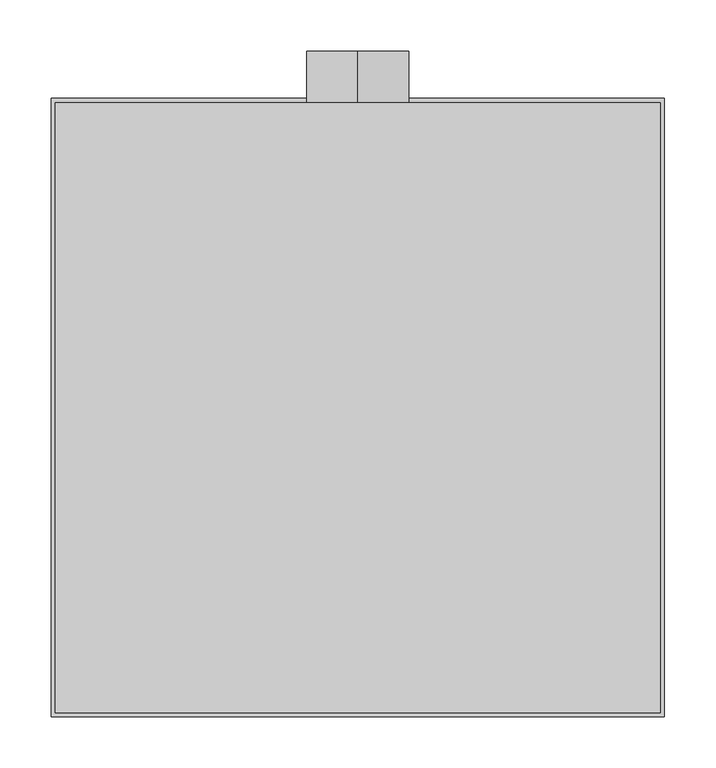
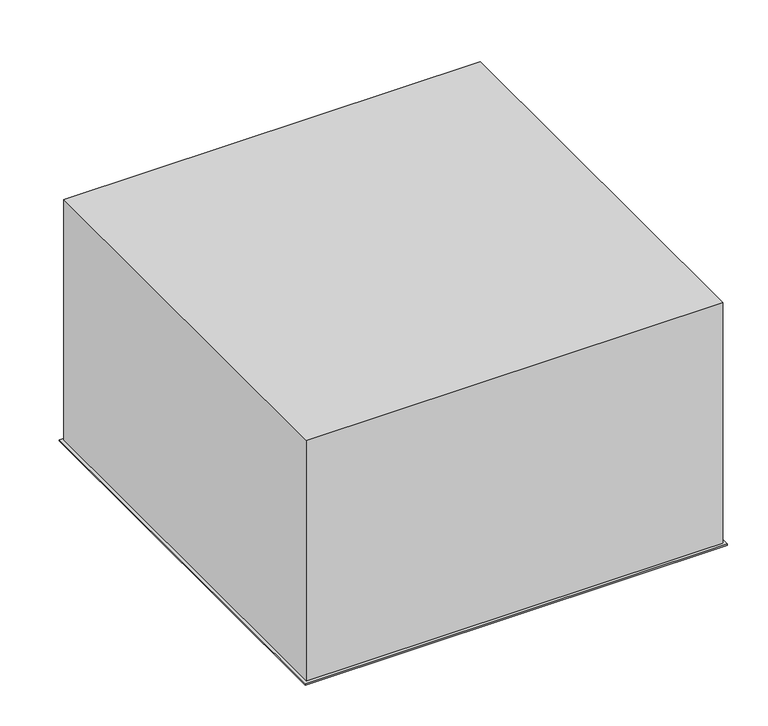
"""IFC4 building model written with IfcOpenShell, lengths in millimetres: air terminal geometry, EOL - plafonnier : EOL-P4-100-600x600."""

import ifcopenshell
import ifcopenshell.guid

model = None  # the IFC model being written
_history = None  # IfcOwnerHistory: only IFC2X3 demands one
_inside = {}  # id of a spatial element -> (the spatial element, [elements in it])
_under = {}  # id of a project, library or spatial element -> (it, [spatial elements below it])
_declared = {}  # id of a project -> (the project, [libraries it declares])
_typed = {}  # id of a type object -> (the type object, [elements of that type])
_made_of = {}  # id of a material, layer set ... -> (it, [elements and type objects made of it])


def new_model(schema):
    """Start an empty IFC model of exactly this schema.

    Asked for "IFC4X3", IfcOpenShell would pick the latest addendum, in which some entities
    have other attributes; the version numbers below select the first issue.
    IFC2X3 requires an IfcOwnerHistory on every rooted entity: one is made here for all.
    """
    global model, _history
    if schema == "IFC4X3":
        model = ifcopenshell.file(schema_version=(4, 3, 0, 0))
    else:
        model = ifcopenshell.file(schema=schema)
    _inside.clear()
    _under.clear()
    _declared.clear()
    _typed.clear()
    _made_of.clear()
    _history = None
    if model.schema == "IFC2X3":
        org = make("IfcOrganization", Name="unknown")
        user = make(
            "IfcPersonAndOrganization",
            ThePerson=make("IfcPerson", FamilyName="unknown"),
            TheOrganization=org,
        )
        app = make(
            "IfcApplication",
            ApplicationDeveloper=org,
            Version="unknown",
            ApplicationFullName="unknown",
            ApplicationIdentifier="unknown",
        )
        _history = make(
            "IfcOwnerHistory",
            OwningUser=user,
            OwningApplication=app,
            ChangeAction="ADDED",
            CreationDate=0,
        )
    return model


def make(cls, **values):
    """One entity of the class cls with the attributes given. An attribute that is None is left unset."""
    return model.create_entity(
        cls, **{name: value for name, value in values.items() if value is not None}
    )


def rooted(cls, **values):
    """An entity with a GlobalId (a new one), such as an element, a storey or a relation."""
    return make(cls, GlobalId=ifcopenshell.guid.new(), OwnerHistory=_history, **values)


def si_unit(unit_type, name, prefix=None):
    """IfcSIUnit, for example si_unit("LENGTHUNIT", "METRE", prefix="MILLI")."""
    return make("IfcSIUnit", UnitType=unit_type, Prefix=prefix, Name=name)


def assignment(units):
    """IfcUnitAssignment: the units of a project."""
    return None if units is None else make("IfcUnitAssignment", Units=units)


def point(xyz):
    """IfcCartesianPoint."""
    return None if xyz is None else make("IfcCartesianPoint", Coordinates=xyz)


def direction(xyz):
    """IfcDirection."""
    return None if xyz is None else make("IfcDirection", DirectionRatios=xyz)


def frame(location, z_axis=None, x_axis=None):
    """IfcAxis2Placement3D, a coordinate frame: its origin and axes. An axis left out is left unset."""
    return make(
        "IfcAxis2Placement3D",
        Location=point(location),
        Axis=direction(z_axis),
        RefDirection=direction(x_axis),
    )


def frame_2d(location, x_axis=None):
    """IfcAxis2Placement2D, a coordinate frame in the plane: its origin and x axis."""
    return make(
        "IfcAxis2Placement2D", Location=point(location), RefDirection=direction(x_axis)
    )


def origin():
    """The frame at (0, 0, 0) with its axes left unset."""
    return frame((0.0, 0.0, 0.0))


def place(relative_to, where):
    """IfcLocalPlacement: puts the frame where relative to a parent placement (None: the world)."""
    return make(
        "IfcLocalPlacement", PlacementRelTo=relative_to, RelativePlacement=where
    )


def context(
    kind, dimensions, precision=None, world=None, true_north=None, identifier=None
):
    """IfcGeometricRepresentationContext, for example the 3D "Model" context."""
    return make(
        "IfcGeometricRepresentationContext",
        ContextIdentifier=identifier,
        ContextType=kind,
        CoordinateSpaceDimension=dimensions,
        Precision=precision,
        WorldCoordinateSystem=world,
        TrueNorth=true_north,
    )


def project(units=None, contexts=None):
    """IfcProject with its units and contexts."""
    return rooted(
        "IfcProject",
        Name="project",
        RepresentationContexts=contexts,
        UnitsInContext=assignment(units),
    )


def spatial(cls, under=None, at=None, **own):
    """A site, building, storey or space (cls), placed at a placement, below another one or the project."""
    s = rooted(cls, ObjectPlacement=at, **own)
    if under is not None:
        _under.setdefault(under.id(), (under, []))[1].append(s)
    return s


def polyline(points):
    """IfcPolyline through the points."""
    return make("IfcPolyline", Points=[point(p) for p in points])


def circle_curve(where, radius):
    """IfcCircle in the frame where."""
    return make("IfcCircle", Position=where, Radius=radius)


def ellipse_curve(where, semi_axis1, semi_axis2):
    """IfcEllipse in the frame where."""
    return make(
        "IfcEllipse", Position=where, SemiAxis1=semi_axis1, SemiAxis2=semi_axis2
    )


def trimmed(basis, trim1, trim2, sense, master):
    """IfcTrimmedCurve: the piece of a basis curve between two trims."""
    return make(
        "IfcTrimmedCurve",
        BasisCurve=basis,
        Trim1=trim1,
        Trim2=trim2,
        SenseAgreement=sense,
        MasterRepresentation=master,
    )


def segment(curve, same_sense, transition):
    """IfcCompositeCurveSegment."""
    return make(
        "IfcCompositeCurveSegment",
        Transition=transition,
        SameSense=same_sense,
        ParentCurve=curve,
    )


def composite_curve(segments, self_intersect=None):
    """IfcCompositeCurve: segments joined end to end."""
    return make("IfcCompositeCurve", Segments=segments, SelfIntersect=self_intersect)


def outline(outer, holes=None, kind="AREA"):
    """IfcArbitraryClosedProfileDef: a profile drawn as a closed curve; with holes, ...WithVoids."""
    if holes is None:
        return make("IfcArbitraryClosedProfileDef", ProfileType=kind, OuterCurve=outer)
    return make(
        "IfcArbitraryProfileDefWithVoids",
        ProfileType=kind,
        OuterCurve=outer,
        InnerCurves=holes,
    )


def extrude(swept, where, along, depth):
    """IfcExtrudedAreaSolid: the profile swept, set in the frame where, extruded along a direction by depth."""
    return make(
        "IfcExtrudedAreaSolid",
        SweptArea=swept,
        Position=where,
        ExtrudedDirection=direction(along),
        Depth=depth,
    )


def shape(context_of_items, identifier, shape_type, items):
    """IfcShapeRepresentation: the items that make up one representation, for example the "Body"."""
    return make(
        "IfcShapeRepresentation",
        ContextOfItems=context_of_items,
        RepresentationIdentifier=identifier,
        RepresentationType=shape_type,
        Items=items,
    )


def source(mapping_origin, context_of_items, identifier, shape_type, items):
    """IfcRepresentationMap: a shape defined once, which mapped items show again and again."""
    return make(
        "IfcRepresentationMap",
        MappingOrigin=mapping_origin,
        MappedRepresentation=shape(context_of_items, identifier, shape_type, items),
    )


def transform(
    local_origin,
    x_axis=None,
    y_axis=None,
    z_axis=None,
    scale=None,
    scale2=None,
    scale3=None,
    uniform=True,
):
    """IfcCartesianTransformationOperator3D, or its non-uniform kind. x_axis, y_axis, z_axis: its Axis1, 2, 3."""
    if uniform:
        return make(
            "IfcCartesianTransformationOperator3D",
            Axis1=direction(x_axis),
            Axis2=direction(y_axis),
            LocalOrigin=point(local_origin),
            Scale=scale,
            Axis3=direction(z_axis),
        )
    return make(
        "IfcCartesianTransformationOperator3DnonUniform",
        Axis1=direction(x_axis),
        Axis2=direction(y_axis),
        LocalOrigin=point(local_origin),
        Scale=scale,
        Axis3=direction(z_axis),
        Scale2=scale2,
        Scale3=scale3,
    )


def mapped(mapping_source, mapping_target):
    """IfcMappedItem: shows the shape of a source again, moved by a transform."""
    return make(
        "IfcMappedItem", MappingSource=mapping_source, MappingTarget=mapping_target
    )


def made_of(thing, what):
    """Note that an element or type object is made of a material, layer set ...; save() writes the relation."""
    if what is not None:
        _made_of.setdefault(what.id(), (what, []))[1].append(thing)
    return thing


def element(
    cls,
    number,
    at=None,
    inside=None,
    cuts=None,
    type_object=None,
    material=None,
    context=None,
    identifier="Body",
    shape_type=None,
    held_by="IfcProductDefinitionShape",
    body=None,
    shapes=None,
    **own,
):
    """One element of the class cls, such as IfcWall. Its Tag is "e" and its number.

    at: its placement. inside: the storey or other place that contains it. cuts: it is an
    opening in that element (IfcRelVoidsElement). A single representation is given by context,
    identifier, shape_type and body (its items); several are given by shapes. held_by: the class
    of the entity that holds the representations. save() writes the other relations.
    """
    e = rooted(cls, Tag="e%d" % number, ObjectPlacement=at, **own)
    if body is not None:
        shapes = [shape(context, identifier, shape_type, body)]
    if shapes is not None:
        e.Representation = make(held_by, Representations=shapes)
    if inside is not None:
        _inside.setdefault(inside.id(), (inside, []))[1].append(e)
    if cuts is not None:
        rooted(
            "IfcRelVoidsElement", RelatingBuildingElement=cuts, RelatedOpeningElement=e
        )
    if type_object is not None:
        _typed.setdefault(type_object.id(), (type_object, []))[1].append(e)
    return made_of(e, material)


def aggregate(whole, parts):
    """IfcRelAggregates: a whole, such as a stair, and the parts it consists of."""
    return rooted("IfcRelAggregates", RelatingObject=whole, RelatedObjects=parts)


def save(model, path):
    """Write the relations noted so far, then the file.

    IfcRelAggregates (storeys below a building ...), IfcRelContainedInSpatialStructure (elements
    in a storey), IfcRelDefinesByType, IfcRelAssociatesMaterial and IfcRelDeclares: one each for
    every whole, place, type object, material and project.
    """
    for whole, parts in _under.values():
        aggregate(whole, parts)
    for where, things in _inside.values():
        rooted(
            "IfcRelContainedInSpatialStructure",
            RelatedElements=things,
            RelatingStructure=where,
        )
    for kind, things in _typed.values():
        rooted("IfcRelDefinesByType", RelatedObjects=things, RelatingType=kind)
    for what, things in _made_of.values():
        rooted("IfcRelAssociatesMaterial", RelatedObjects=things, RelatingMaterial=what)
    for by, libraries in _declared.values():
        rooted("IfcRelDeclares", RelatingContext=by, RelatedDefinitions=libraries)
    model.write(path)


def plane_surface(at):
    """IfcPlane: the flat surface through the origin of the frame at, square to its z axis."""
    return make("IfcPlane", Position=at)


def cylinder_surface(at, radius):
    """IfcCylindricalSurface: all points at the distance radius from the z axis of the frame at."""
    return make("IfcCylindricalSurface", Position=at, Radius=radius)


def revolved_surface(curve, axis_point, axis_direction):
    """IfcSurfaceOfRevolution: the curve turned about the line through axis_point along axis_direction."""
    return make(
        "IfcSurfaceOfRevolution",
        SweptCurve=make("IfcArbitraryOpenProfileDef", ProfileType="CURVE", Curve=curve),
        AxisPosition=make("IfcAxis1Placement", Location=point(axis_point), Axis=direction(axis_direction)),
    )


def advanced_brep(points, edges, surfaces, faces):
    """IfcAdvancedBrep: a solid bounded by faces that lie on surfaces and meet in shared edges.

    An edge is (start, end): straight between two places in points (the first is 0);
    or (start, end, curve); or (start, end, curve, False) where it runs against its curve.
    A face is (place in surfaces, loops), or (place, loops, False) where it looks against
    its surface's normal. A loop lists edges by number (the first is 1), with a minus sign
    where the edge is run from its end to its start. The first loop is the outer one.
    """
    corners = [point(p) for p in points]
    vertices = [make("IfcVertexPoint", VertexGeometry=c) for c in corners]
    made = []
    for start, end, *more in edges:
        made.append(
            make(
                "IfcEdgeCurve",
                EdgeStart=vertices[start],
                EdgeEnd=vertices[end],
                EdgeGeometry=more[0] if more else make("IfcPolyline", Points=[corners[start], corners[end]]),
                SameSense=more[1] if len(more) > 1 else True,
            )
        )
    hull = []
    for where, loops, *sense in faces:
        bounds = []
        for j, loop in enumerate(loops):
            ring = [make("IfcOrientedEdge", EdgeElement=made[abs(k) - 1], Orientation=k > 0) for k in loop]
            bounds.append(
                make(
                    "IfcFaceOuterBound" if j == 0 else "IfcFaceBound",
                    Bound=make("IfcEdgeLoop", EdgeList=ring),
                    Orientation=True,
                )
            )
        hull.append(make("IfcAdvancedFace", Bounds=bounds, FaceSurface=surfaces[where], SameSense=sense[0] if sense else True))
    return make("IfcAdvancedBrep", Outer=make("IfcClosedShell", CfsFaces=hull))


def air_terminal_af872f7b(model_context):
    return source(origin(), model_context, "Body", "SolidModel", [
        advanced_brep(
        [(42.3125856, 336.1251712, 26.7), (70.0, 363.8125856, 1.0), (70.0, 221.1874144, 1.0), (42.3125856, 248.8748288, 26.7), (42.3125856, 336.1251712, 35.0), (42.3125856, 248.8748288, 35.0), (43.3125856, 337.1251712, 26.77286), (43.3125856, 337.1251712, 35.0), (43.3125856, 247.8748288, 35.0), (43.3125856, 247.8748288, 26.77286), (70.0, 363.8125856, 2.0025269), (70.0, 221.1874144, 2.0025269), (-70.0, 221.1874144, 1.0), (-42.3125856, 248.8748288, 26.7), (-42.3125856, 248.8748288, 35.0), (-43.3125856, 247.8748288, 35.0), (-43.3125856, 247.8748288, 26.77286), (-70.0, 221.1874144, 2.0025269), (-70.0, 363.8125856, 1.0), (-42.3125856, 336.1251712, 26.7), (-42.3125856, 336.1251712, 35.0), (-43.3125856, 337.1251712, 35.0), (-43.3125856, 337.1251712, 26.77286), (-70.0, 363.8125856, 2.0025269)],
        [
            (0, 1, ellipse_curve(frame((72.1, 365.9125856, 31.0266548), z_axis=(0.7071067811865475, -0.7071067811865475, 0.0), x_axis=(0.7071067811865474, 0.7071067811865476, 0.0)), 42.5678282, 30.1)),
            (1, 2),
            (2, 3, ellipse_curve(frame((72.1, 219.0874144, 31.0266548), z_axis=(0.7071067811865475, 0.7071067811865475, 0.0), x_axis=(-0.7071067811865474, 0.7071067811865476, 0.0)), 42.5678282, 30.1)),
            (3, 0),
            (4, 0),
            (3, 5),
            (5, 4),
            (6, 7),
            (7, 8),
            (8, 9),
            (9, 6),
            (10, 6, ellipse_curve(frame((72.1, 365.9125856, 31.0266548), z_axis=(-0.7071067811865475, 0.7071067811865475, 0.0), x_axis=(-0.7071067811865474, -0.7071067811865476, 0.0)), 41.1536147, 29.1)),
            (9, 11, ellipse_curve(frame((72.1, 219.0874144, 31.0266548), z_axis=(-0.7071067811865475, -0.7071067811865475, 0.0), x_axis=(0.7071067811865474, -0.7071067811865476, 0.0)), 41.1536147, 29.1)),
            (11, 10),
            (1, 10),
            (11, 2),
            (2, 12),
            (12, 13, ellipse_curve(frame((-72.1, 219.0874144, 31.0266548), z_axis=(0.7071067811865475, -0.7071067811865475, 0.0), x_axis=(0.7071067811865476, 0.7071067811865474, 0.0)), 42.5678282, 30.1)),
            (13, 3),
            (13, 14),
            (14, 5),
            (8, 15),
            (15, 16),
            (16, 9),
            (16, 17, ellipse_curve(frame((-72.1, 219.0874144, 31.0266548), z_axis=(-0.7071067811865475, 0.7071067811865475, 0.0), x_axis=(-0.7071067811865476, -0.7071067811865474, 0.0)), 41.1536147, 29.1)),
            (17, 11),
            (17, 12),
            (12, 18),
            (18, 19, ellipse_curve(frame((-72.1, 365.9125856, 31.0266548), z_axis=(-0.7071067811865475, -0.7071067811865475, 0.0), x_axis=(0.7071067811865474, -0.7071067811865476, 0.0)), 42.5678282, 30.1)),
            (19, 13),
            (19, 20),
            (20, 14),
            (15, 21),
            (21, 22),
            (22, 16),
            (22, 23, ellipse_curve(frame((-72.1, 365.9125856, 31.0266548), z_axis=(0.7071067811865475, 0.7071067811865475, 0.0), x_axis=(-0.7071067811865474, 0.7071067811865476, 0.0)), 41.1536147, 29.1)),
            (23, 17),
            (23, 18),
            (18, 1),
            (0, 19),
            (4, 20),
            (7, 21),
            (6, 22),
            (10, 23),
        ],
        [
            cylinder_surface(frame((72.1, 335.8125856, 31.0266548), z_axis=(0.0, 1.0, 0.0), x_axis=(1.0, 0.0, 0.0)), 30.1),
            plane_surface(frame((42.3125856, 336.1251712, 26.7), z_axis=(-1.0, 0.0, 0.0), x_axis=(0.0, -1.0, 0.0))),
            plane_surface(frame((43.3125856, 337.1251712, 35.0), z_axis=(1.0, 0.0, 0.0), x_axis=(0.0, -1.0, 0.0))),
            revolved_surface(polyline([(101.19999999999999, 189.98741437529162, 31.0266548), (101.19999999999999, 395.0125856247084, 31.0266548)]), (72.1, 335.8125856, 31.0266548), (0.0, -1.0, 0.0)),
            plane_surface(frame((70.0, 363.8125856, 2.0025269), z_axis=(1.0, 0.0, 0.0), x_axis=(0.0, -1.0, 0.0))),
            cylinder_surface(frame((42.0, 219.0874144, 31.0266548), z_axis=(1.0, 0.0, 0.0), x_axis=(0.0, -1.0, 0.0)), 30.1),
            plane_surface(frame((42.3125856, 248.8748288, 26.7), z_axis=(0.0, 1.0, 0.0), x_axis=(-1.0, 0.0, 0.0))),
            plane_surface(frame((43.3125856, 247.8748288, 35.0), z_axis=(0.0, -1.0, 0.0), x_axis=(-1.0, 0.0, 0.0))),
            revolved_surface(polyline([(-101.20000002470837, 189.9874144, 31.0266548), (101.20000002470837, 189.9874144, 31.0266548)]), (42.0, 219.0874144, 31.0266548), (-1.0, 0.0, 0.0)),
            plane_surface(frame((70.0, 221.1874144, 2.0025269), z_axis=(0.0, -1.0, 0.0), x_axis=(-1.0, 0.0, 0.0))),
            cylinder_surface(frame((-72.1, 249.1874144, 31.0266548), z_axis=(0.0, -1.0, 0.0), x_axis=(-1.0, 0.0, 0.0)), 30.1),
            plane_surface(frame((-42.3125856, 248.8748288, 26.7), z_axis=(1.0, 0.0, 0.0), x_axis=(0.0, 1.0, 0.0))),
            plane_surface(frame((-43.3125856, 247.8748288, 35.0), z_axis=(-1.0, 0.0, 0.0), x_axis=(0.0, 1.0, 0.0))),
            revolved_surface(polyline([(-101.19999999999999, 395.0125856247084, 31.0266548), (-101.19999999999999, 189.98741437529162, 31.0266548)]), (-72.1, 249.1874144, 31.0266548), (0.0, 1.0, 0.0)),
            plane_surface(frame((-70.0, 221.1874144, 2.0025269), z_axis=(-1.0, 0.0, 0.0), x_axis=(0.0, 1.0, 0.0))),
            cylinder_surface(frame((-42.0, 365.9125856, 31.0266548), z_axis=(-1.0, 0.0, 0.0), x_axis=(0.0, 1.0, 0.0)), 30.1),
            plane_surface(frame((-42.3125856, 336.1251712, 26.7), z_axis=(0.0, -1.0, 0.0), x_axis=(1.0, 0.0, 0.0))),
            plane_surface(frame((-42.3125856, 336.1251712, 35.0), z_axis=(0.0, 0.0, 1.0), x_axis=(1.0, 0.0, 0.0))),
            plane_surface(frame((-43.3125856, 337.1251712, 35.0), z_axis=(0.0, 1.0, 0.0), x_axis=(1.0, 0.0, 0.0))),
            revolved_surface(polyline([(101.20000002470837, 395.0125856, 31.0266548), (-101.20000002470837, 395.0125856, 31.0266548)]), (-42.0, 365.9125856, 31.0266548), (1.0, 0.0, 0.0)),
            plane_surface(frame((-70.0, 363.8125856, 2.0025269), z_axis=(0.0, 1.0, 0.0), x_axis=(1.0, 0.0, 0.0))),
        ],
        [
            (0, [[1, 2, 3, 4]]),
            (1, [[5, -4, 6, 7]]),
            (2, [[8, 9, 10, 11]]),
            (3, [[12, -11, 13, 14]]),
            (4, [[15, -14, 16, -2]]),
            (5, [[-3, 17, 18, 19]]),
            (6, [[-6, -19, 20, 21]]),
            (7, [[-10, 22, 23, 24]]),
            (8, [[-13, -24, 25, 26]]),
            (9, [[-16, -26, 27, -17]]),
            (10, [[-18, 28, 29, 30]]),
            (11, [[-20, -30, 31, 32]]),
            (12, [[-23, 33, 34, 35]]),
            (13, [[-25, -35, 36, 37]]),
            (14, [[-27, -37, 38, -28]]),
            (15, [[-29, 39, -1, 40]]),
            (16, [[-31, -40, -5, 41]]),
            (17, [[42, -33, -22, -9], [-21, -32, -41, -7]]),
            (18, [[-34, -42, -8, 43]]),
            (19, [[-36, -43, -12, 44]]),
            (20, [[-38, -44, -15, -39]]),
        ],
    ),
        extrude(outline(polyline([(299.0, 594.0), (299.0, -9.0), (-299.0, -9.0), (-299.0, 594.0), (299.0, 594.0)]), holes=[polyline([(290.0, 585.0), (-290.0, 585.0), (-290.0, 0.0), (290.0, 0.0), (290.0, 585.0)])]), frame((0.0, 0.0, -2.0), z_axis=(0.0, 0.0, 1.0), x_axis=(1.0, 0.0, 0.0)), (0.0, 0.0, 1.0), 2.0),
        extrude(outline(composite_curve([segment(trimmed(circle_curve(frame_2d((241.0, 0.0)), 50.0), [point((191.0, 0.0))], [point((291.0, 0.0))], False, "CARTESIAN"), True, "CONTINUOUS"), segment(trimmed(circle_curve(frame_2d((241.0, 0.0)), 50.0), [point((291.0, 0.0))], [point((191.0, 0.0))], False, "CARTESIAN"), True, "CONTINUOUS")], self_intersect=False), holes=[composite_curve([segment(trimmed(circle_curve(frame_2d((241.0, 0.0)), 49.0), [point((241.0, 49.0))], [point((241.0, -49.0))], True, "CARTESIAN"), True, "CONTINUOUS"), segment(trimmed(circle_curve(frame_2d((241.0, 0.0)), 49.0), [point((241.0, -49.0))], [point((241.0, 49.0))], True, "CARTESIAN"), True, "CONTINUOUS")], self_intersect=False)]), frame((0.0, 590.0, 0.0), z_axis=(0.0, 1.0, 0.0), x_axis=(0.0, 0.0, 1.0)), (0.0, 0.0, 1.0), 50.0),
        advanced_brep(
        [(295.0, 590.0, 361.0), (-295.0, 590.0, 361.0), (-295.0, -5.0, 361.0), (295.0, -5.0, 361.0), (295.0, 590.0, 0.0), (295.0, -5.0, 0.0), (-295.0, -5.0, 0.0), (-295.0, 590.0, 0.0), (290.0, 585.0, 0.0), (-290.0, 585.0, 0.0), (-290.0, 0.0, 0.0), (290.0, 0.0, 0.0), (-49.0, 590.0, 241.0), (49.0, 590.0, 241.0), (290.0, 585.0, 356.0), (290.0, 0.0, 356.0), (-290.0, 0.0, 356.0), (-290.0, 585.0, 356.0), (49.0, 585.0, 241.0), (-49.0, 585.0, 241.0)],
        [
            (0, 1),
            (1, 2),
            (2, 3),
            (3, 0),
            (4, 5),
            (5, 6),
            (6, 7),
            (7, 4),
            (8, 9),
            (9, 10),
            (10, 11),
            (11, 8),
            (0, 4),
            (7, 1),
            (12, 13, circle_curve(frame((0.0, 590.0, 241.0), z_axis=(0.0, -1.0, 0.0), x_axis=(1.0, 0.0, 0.0)), 49.0)),
            (13, 12, circle_curve(frame((0.0, 590.0, 241.0), z_axis=(0.0, -1.0, 0.0), x_axis=(1.0, 0.0, 0.0)), 49.0)),
            (6, 2),
            (5, 3),
            (14, 15),
            (15, 16),
            (16, 17),
            (17, 14),
            (17, 9),
            (8, 14),
            (18, 19, circle_curve(frame((0.0, 585.0, 241.0), z_axis=(0.0, 1.0, 0.0), x_axis=(1.0, 0.0, 0.0)), 49.0)),
            (19, 18, circle_curve(frame((0.0, 585.0, 241.0), z_axis=(0.0, 1.0, 0.0), x_axis=(1.0, 0.0, 0.0)), 49.0)),
            (16, 10),
            (15, 11),
            (12, 19),
            (18, 13),
        ],
        [
            plane_surface(frame((-295.0, 590.0, 361.0), z_axis=(0.0, 0.0, 1.0), x_axis=(-1.0, 0.0, 0.0))),
            plane_surface(frame((-295.0, 590.0, 0.0), z_axis=(0.0, 0.0, -1.0), x_axis=(1.0, 0.0, 0.0))),
            plane_surface(frame((295.0, 590.0, 361.0), z_axis=(0.0, 1.0, 0.0), x_axis=(0.0, 0.0, -1.0))),
            plane_surface(frame((-295.0, 590.0, 361.0), z_axis=(-1.0, 0.0, 0.0), x_axis=(0.0, 0.0, -1.0))),
            plane_surface(frame((-295.0, -5.0, 361.0), z_axis=(0.0, -1.0, 0.0), x_axis=(0.0, 0.0, -1.0))),
            plane_surface(frame((295.0, -5.0, 361.0), z_axis=(1.0, 0.0, 0.0), x_axis=(0.0, 0.0, -1.0))),
            plane_surface(frame((-290.0, 585.0, 356.0), z_axis=(0.0, 0.0, -1.0), x_axis=(-1.0, 0.0, 0.0))),
            plane_surface(frame((290.0, 585.0, 356.0), z_axis=(0.0, -1.0, 0.0), x_axis=(0.0, 0.0, -1.0))),
            plane_surface(frame((-290.0, 585.0, 356.0), z_axis=(1.0, 0.0, 0.0), x_axis=(0.0, 0.0, -1.0))),
            plane_surface(frame((-290.0, 0.0, 356.0), z_axis=(0.0, 1.0, 0.0), x_axis=(0.0, 0.0, -1.0))),
            plane_surface(frame((290.0, 0.0, 356.0), z_axis=(-1.0, 0.0, 0.0), x_axis=(0.0, 0.0, -1.0))),
            revolved_surface(polyline([(49.0, 585.0, 241.0), (49.0, 590.0, 241.0)]), (0.0, 640.0, 241.0), (0.0, -1.0, 0.0)),
        ],
        [
            (0, [[1, 2, 3, 4]]),
            (1, [[5, 6, 7, 8], [9, 10, 11, 12]]),
            (2, [[-1, 13, -8, 14], [15, 16]]),
            (3, [[-2, -14, -7, 17]]),
            (4, [[-3, -17, -6, 18]]),
            (5, [[-4, -18, -5, -13]]),
            (6, [[19, 20, 21, 22]]),
            (7, [[-22, 23, -9, 24], [25, 26]]),
            (8, [[-21, 27, -10, -23]]),
            (9, [[-20, 28, -11, -27]]),
            (10, [[-19, -24, -12, -28]]),
            (11, [[29, -25, 30, -15]]),
            (11, [[-29, -16, -30, -26]]),
        ],
    ),
    ])


if __name__ == "__main__":
    model = new_model("IFC4")
    model_context = context("Model", 3, world=origin())
    ifc_project = project(units=[si_unit("LENGTHUNIT", "METRE", prefix="MILLI")], contexts=[model_context])
    site = spatial("IfcSite", under=ifc_project)
    building = spatial("IfcBuilding", under=site)
    placement = place(None, origin())
    air_terminal_shape = air_terminal_af872f7b(model_context)
    element("IfcAirTerminal", 1, ObjectType="EOL - plafonnier : EOL-P4-100-600x600", at=placement, inside=building, context=model_context, shape_type="MappedRepresentation", body=[
        mapped(air_terminal_shape, transform((0.0, 0.0, 0.0), x_axis=(1.0, 0.0, 0.0), y_axis=(0.0, 1.0, 0.0), z_axis=(0.0, 0.0, 1.0))),
    ])
    save(model, "model.ifc")
